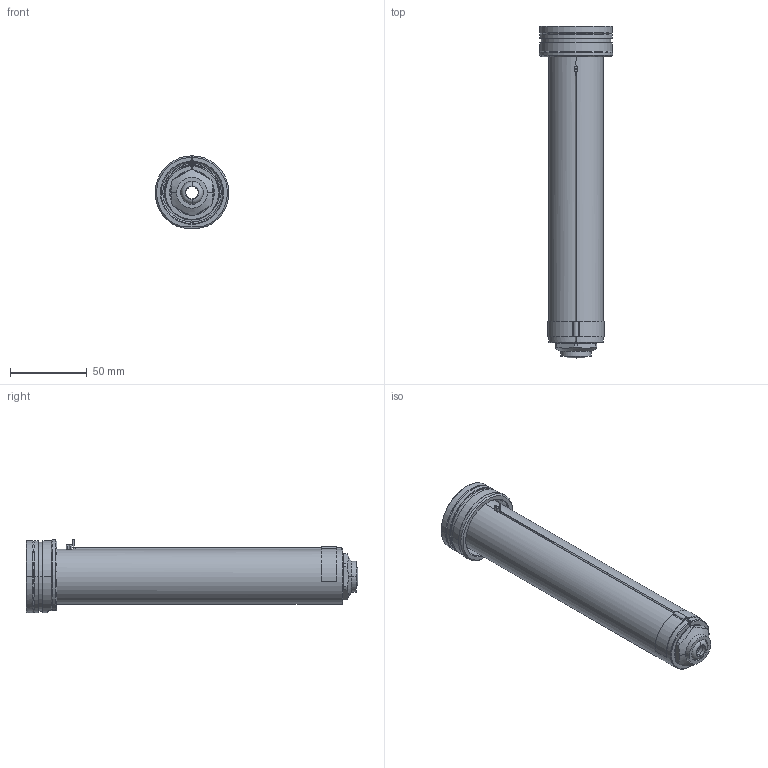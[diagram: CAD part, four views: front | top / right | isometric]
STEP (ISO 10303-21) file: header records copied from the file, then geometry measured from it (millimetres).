
FILE_DESCRIPTION((''),'2;1');
FILE_NAME('EO16_VG-BL_WR_200_SW','2024-02-19T13:21:57',('sundharh'),(''),'CREO PARAMETRIC BY PTC INC, 2023154','CREO PARAMETRIC BY PTC INC, 2023154','');
FILE_SCHEMA(('CONFIG_CONTROL_DESIGN'));
Length unit declared in the file: millimetre
Products named in the file (1): EO16_VG-BL_WR_200_SW
Bounding box: 47.97 x 215.8 x 48 mm (x, y, z)
Volume: 177954.7 mm3; surface area: 43789.9 mm2
Topology: 1 solids, 1 shells, 191 faces, 463 edges, 278 vertices
Faces by surface type: cylinder 72, plane 45, cone 37, torus 22, bspline 13, sphere 2
Entity records: 6494 total; most frequent: CARTESIAN_POINT 1961, DIRECTION 1014, ORIENTED_EDGE 910, EDGE_CURVE 455, AXIS2_PLACEMENT_3D 423, VERTEX_POINT 278, CIRCLE 245, EDGE_LOOP 207
